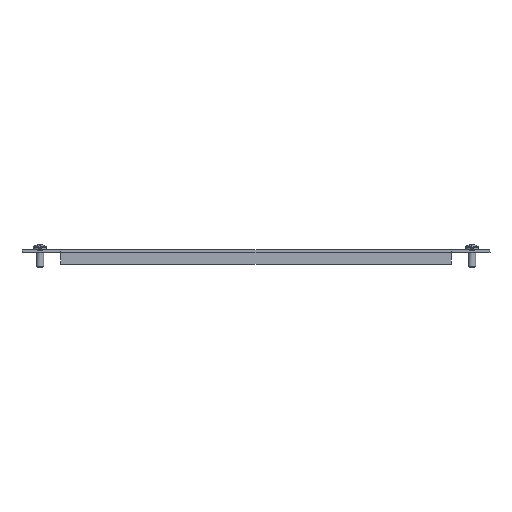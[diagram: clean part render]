
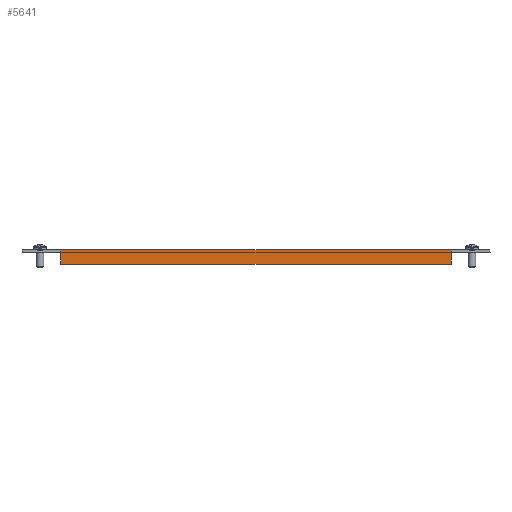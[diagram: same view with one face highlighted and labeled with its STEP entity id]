
A CAD part, front view. The second image highlights one B-rep face of the part: STEP entity #5641.
In plain terms, the highlighted planar face has unit normal (0, -1, 0).
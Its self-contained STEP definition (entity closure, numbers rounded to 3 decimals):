
#40 = LINE ( 'NONE', #4438, #2089 ) ;
#122 = EDGE_CURVE ( 'NONE', #3797, #187, #5622, .T. ) ;
#154 = DIRECTION ( 'NONE',  ( 0., 0., 1. ) ) ;
#187 = VERTEX_POINT ( 'NONE', #5295 ) ;
#204 = DIRECTION ( 'NONE',  ( 0., 0., -1. ) ) ;
#217 = EDGE_CURVE ( 'NONE', #1706, #6053, #5333, .T. ) ;
#358 = ORIENTED_EDGE ( 'NONE', *, *, #4858, .T. ) ;
#481 = DIRECTION ( 'NONE',  ( 0., 0., 1. ) ) ;
#494 = VECTOR ( 'NONE', #4712, 1000. ) ;
#572 = DIRECTION ( 'NONE',  ( -1., 0., 0. ) ) ;
#662 = DIRECTION ( 'NONE',  ( 0., -1., 0. ) ) ;
#756 = FACE_OUTER_BOUND ( 'NONE', #3219, .T. ) ;
#835 = CARTESIAN_POINT ( 'NONE',  ( 135.5, -735., -10. ) ) ;
#952 = CARTESIAN_POINT ( 'NONE',  ( -135.5, -735., 0. ) ) ;
#1018 = ORIENTED_EDGE ( 'NONE', *, *, #217, .F. ) ;
#1109 = VECTOR ( 'NONE', #481, 1000. ) ;
#1185 = VECTOR ( 'NONE', #3921, 1000. ) ;
#1706 = VERTEX_POINT ( 'NONE', #835 ) ;
#1945 = CARTESIAN_POINT ( 'NONE',  ( 135.5, -735., 0. ) ) ;
#2089 = VECTOR ( 'NONE', #154, 1000. ) ;
#2149 = CARTESIAN_POINT ( 'NONE',  ( 135.5, -735., -2.4 ) ) ;
#2789 = VECTOR ( 'NONE', #5160, 1000. ) ;
#2790 = CARTESIAN_POINT ( 'NONE',  ( -135.5, -735., -1.8 ) ) ;
#2809 = ORIENTED_EDGE ( 'NONE', *, *, #3979, .F. ) ;
#2888 = ORIENTED_EDGE ( 'NONE', *, *, #122, .F. ) ;
#2993 = AXIS2_PLACEMENT_3D ( 'NONE', #5900, #662, #204 ) ;
#3047 = EDGE_CURVE ( 'NONE', #5507, #187, #3852, .T. ) ;
#3194 = CARTESIAN_POINT ( 'NONE',  ( -135.5, -735., -10. ) ) ;
#3219 = EDGE_LOOP ( 'NONE', ( #2809, #358, #3429, #2888, #3741, #1018 ) ) ;
#3429 = ORIENTED_EDGE ( 'NONE', *, *, #3047, .T. ) ;
#3741 = ORIENTED_EDGE ( 'NONE', *, *, #4025, .F. ) ;
#3797 = VERTEX_POINT ( 'NONE', #6094 ) ;
#3826 = LINE ( 'NONE', #2790, #494 ) ;
#3852 = LINE ( 'NONE', #5330, #1185 ) ;
#3921 = DIRECTION ( 'NONE',  ( -1., 0., 0. ) ) ;
#3979 = EDGE_CURVE ( 'NONE', #5886, #1706, #6217, .T. ) ;
#4025 = EDGE_CURVE ( 'NONE', #6053, #3797, #3826, .T. ) ;
#4438 = CARTESIAN_POINT ( 'NONE',  ( 135.5, -735., -2.4 ) ) ;
#4579 = PLANE ( 'NONE',  #2993 ) ;
#4712 = DIRECTION ( 'NONE',  ( 0., 0., 1. ) ) ;
#4858 = EDGE_CURVE ( 'NONE', #5886, #5507, #40, .T. ) ;
#5160 = DIRECTION ( 'NONE',  ( 0., 0., -1. ) ) ;
#5242 = VECTOR ( 'NONE', #572, 1000. ) ;
#5253 = CARTESIAN_POINT ( 'NONE',  ( 135.5, -735., -10. ) ) ;
#5295 = CARTESIAN_POINT ( 'NONE',  ( -135.5, -735., 0. ) ) ;
#5330 = CARTESIAN_POINT ( 'NONE',  ( 0., -735., 0. ) ) ;
#5333 = LINE ( 'NONE', #5780, #5242 ) ;
#5507 = VERTEX_POINT ( 'NONE', #1945 ) ;
#5622 = LINE ( 'NONE', #952, #1109 ) ;
#5641 = ADVANCED_FACE ( 'NONE', ( #756 ), #4579, .T. ) ;
#5780 = CARTESIAN_POINT ( 'NONE',  ( -135.5, -735., -10. ) ) ;
#5886 = VERTEX_POINT ( 'NONE', #2149 ) ;
#5900 = CARTESIAN_POINT ( 'NONE',  ( 0., -735., 0. ) ) ;
#6053 = VERTEX_POINT ( 'NONE', #3194 ) ;
#6094 = CARTESIAN_POINT ( 'NONE',  ( -135.5, -735., -2.4 ) ) ;
#6217 = LINE ( 'NONE', #5253, #2789 ) ;
